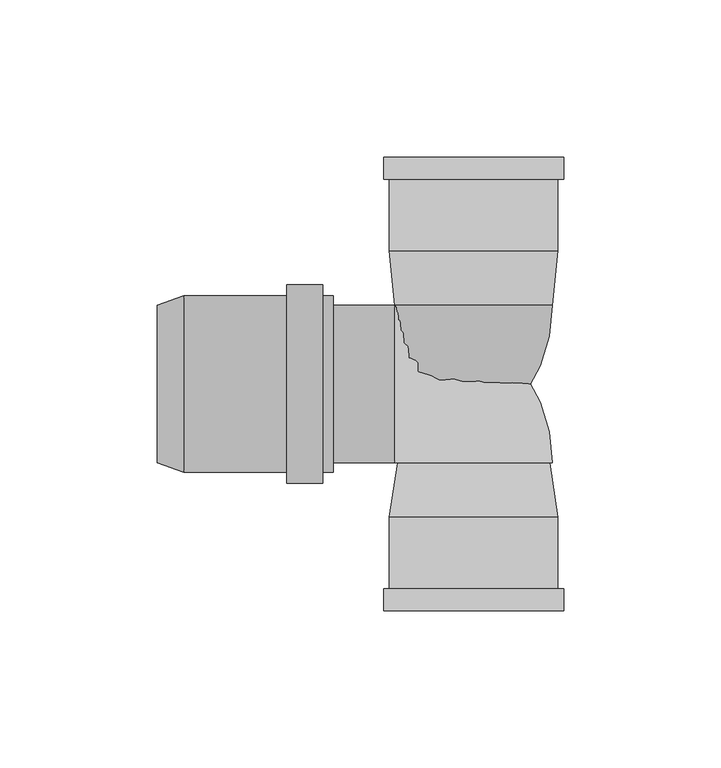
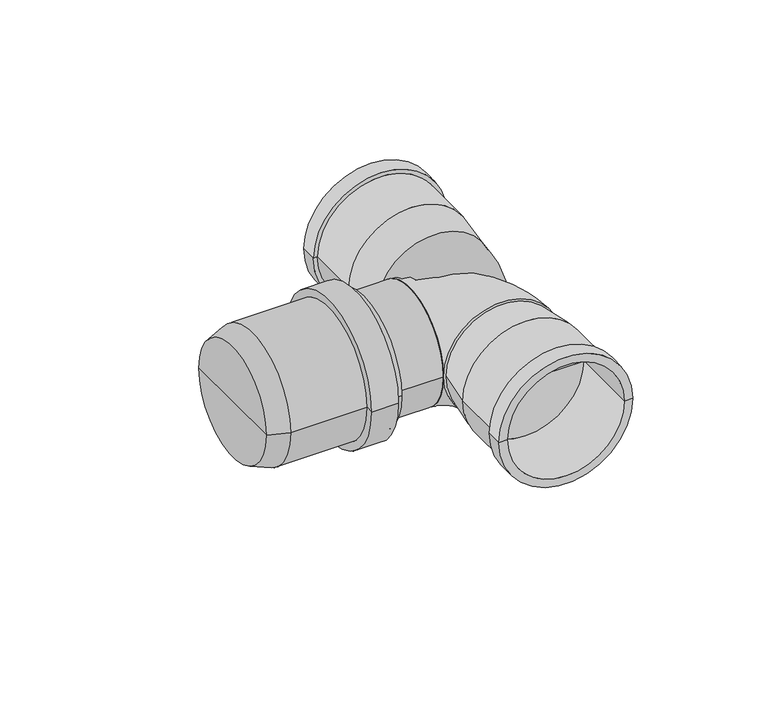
"""IFC4 building model written with IfcOpenShell, lengths in millimetres: pipe fitting geometry, pf_HTDSW : pf_HTDSW."""

import ifcopenshell
import ifcopenshell.guid

model = None  # the IFC model being written
_history = None  # IfcOwnerHistory: only IFC2X3 demands one
_inside = {}  # id of a spatial element -> (the spatial element, [elements in it])
_under = {}  # id of a project, library or spatial element -> (it, [spatial elements below it])
_declared = {}  # id of a project -> (the project, [libraries it declares])
_typed = {}  # id of a type object -> (the type object, [elements of that type])
_made_of = {}  # id of a material, layer set ... -> (it, [elements and type objects made of it])


def new_model(schema):
    """Start an empty IFC model of exactly this schema.

    Asked for "IFC4X3", IfcOpenShell would pick the latest addendum, in which some entities
    have other attributes; the version numbers below select the first issue.
    IFC2X3 requires an IfcOwnerHistory on every rooted entity: one is made here for all.
    """
    global model, _history
    if schema == "IFC4X3":
        model = ifcopenshell.file(schema_version=(4, 3, 0, 0))
    else:
        model = ifcopenshell.file(schema=schema)
    _inside.clear()
    _under.clear()
    _declared.clear()
    _typed.clear()
    _made_of.clear()
    _history = None
    if model.schema == "IFC2X3":
        org = make("IfcOrganization", Name="unknown")
        user = make(
            "IfcPersonAndOrganization",
            ThePerson=make("IfcPerson", FamilyName="unknown"),
            TheOrganization=org,
        )
        app = make(
            "IfcApplication",
            ApplicationDeveloper=org,
            Version="unknown",
            ApplicationFullName="unknown",
            ApplicationIdentifier="unknown",
        )
        _history = make(
            "IfcOwnerHistory",
            OwningUser=user,
            OwningApplication=app,
            ChangeAction="ADDED",
            CreationDate=0,
        )
    return model


def make(cls, **values):
    """One entity of the class cls with the attributes given. An attribute that is None is left unset."""
    return model.create_entity(
        cls, **{name: value for name, value in values.items() if value is not None}
    )


def rooted(cls, **values):
    """An entity with a GlobalId (a new one), such as an element, a storey or a relation."""
    return make(cls, GlobalId=ifcopenshell.guid.new(), OwnerHistory=_history, **values)


def si_unit(unit_type, name, prefix=None):
    """IfcSIUnit, for example si_unit("LENGTHUNIT", "METRE", prefix="MILLI")."""
    return make("IfcSIUnit", UnitType=unit_type, Prefix=prefix, Name=name)


def assignment(units):
    """IfcUnitAssignment: the units of a project."""
    return None if units is None else make("IfcUnitAssignment", Units=units)


def point(xyz):
    """IfcCartesianPoint."""
    return None if xyz is None else make("IfcCartesianPoint", Coordinates=xyz)


def direction(xyz):
    """IfcDirection."""
    return None if xyz is None else make("IfcDirection", DirectionRatios=xyz)


def frame(location, z_axis=None, x_axis=None):
    """IfcAxis2Placement3D, a coordinate frame: its origin and axes. An axis left out is left unset."""
    return make(
        "IfcAxis2Placement3D",
        Location=point(location),
        Axis=direction(z_axis),
        RefDirection=direction(x_axis),
    )


def frame_2d(location, x_axis=None):
    """IfcAxis2Placement2D, a coordinate frame in the plane: its origin and x axis."""
    return make(
        "IfcAxis2Placement2D", Location=point(location), RefDirection=direction(x_axis)
    )


def origin():
    """The frame at (0, 0, 0) with its axes left unset."""
    return frame((0.0, 0.0, 0.0))


def origin_2d():
    """The frame at (0, 0) in the plane with its x axis left unset."""
    return frame_2d((0.0, 0.0))


def place(relative_to, where):
    """IfcLocalPlacement: puts the frame where relative to a parent placement (None: the world)."""
    return make(
        "IfcLocalPlacement", PlacementRelTo=relative_to, RelativePlacement=where
    )


def context(
    kind, dimensions, precision=None, world=None, true_north=None, identifier=None
):
    """IfcGeometricRepresentationContext, for example the 3D "Model" context."""
    return make(
        "IfcGeometricRepresentationContext",
        ContextIdentifier=identifier,
        ContextType=kind,
        CoordinateSpaceDimension=dimensions,
        Precision=precision,
        WorldCoordinateSystem=world,
        TrueNorth=true_north,
    )


def project(units=None, contexts=None):
    """IfcProject with its units and contexts."""
    return rooted(
        "IfcProject",
        Name="project",
        RepresentationContexts=contexts,
        UnitsInContext=assignment(units),
    )


def spatial(cls, under=None, at=None, **own):
    """A site, building, storey or space (cls), placed at a placement, below another one or the project."""
    s = rooted(cls, ObjectPlacement=at, **own)
    if under is not None:
        _under.setdefault(under.id(), (under, []))[1].append(s)
    return s


def polyline(points):
    """IfcPolyline through the points."""
    return make("IfcPolyline", Points=[point(p) for p in points])


def circle_curve(where, radius):
    """IfcCircle in the frame where."""
    return make("IfcCircle", Position=where, Radius=radius)


def ellipse_curve(where, semi_axis1, semi_axis2):
    """IfcEllipse in the frame where."""
    return make(
        "IfcEllipse", Position=where, SemiAxis1=semi_axis1, SemiAxis2=semi_axis2
    )


def trimmed(basis, trim1, trim2, sense, master):
    """IfcTrimmedCurve: the piece of a basis curve between two trims."""
    return make(
        "IfcTrimmedCurve",
        BasisCurve=basis,
        Trim1=trim1,
        Trim2=trim2,
        SenseAgreement=sense,
        MasterRepresentation=master,
    )


def segment(curve, same_sense, transition):
    """IfcCompositeCurveSegment."""
    return make(
        "IfcCompositeCurveSegment",
        Transition=transition,
        SameSense=same_sense,
        ParentCurve=curve,
    )


def composite_curve(segments, self_intersect=None):
    """IfcCompositeCurve: segments joined end to end."""
    return make("IfcCompositeCurve", Segments=segments, SelfIntersect=self_intersect)


def outline(outer, holes=None, kind="AREA"):
    """IfcArbitraryClosedProfileDef: a profile drawn as a closed curve; with holes, ...WithVoids."""
    if holes is None:
        return make("IfcArbitraryClosedProfileDef", ProfileType=kind, OuterCurve=outer)
    return make(
        "IfcArbitraryProfileDefWithVoids",
        ProfileType=kind,
        OuterCurve=outer,
        InnerCurves=holes,
    )


def extrude(swept, where, along, depth):
    """IfcExtrudedAreaSolid: the profile swept, set in the frame where, extruded along a direction by depth."""
    return make(
        "IfcExtrudedAreaSolid",
        SweptArea=swept,
        Position=where,
        ExtrudedDirection=direction(along),
        Depth=depth,
    )


def shape(context_of_items, identifier, shape_type, items):
    """IfcShapeRepresentation: the items that make up one representation, for example the "Body"."""
    return make(
        "IfcShapeRepresentation",
        ContextOfItems=context_of_items,
        RepresentationIdentifier=identifier,
        RepresentationType=shape_type,
        Items=items,
    )


def source(mapping_origin, context_of_items, identifier, shape_type, items):
    """IfcRepresentationMap: a shape defined once, which mapped items show again and again."""
    return make(
        "IfcRepresentationMap",
        MappingOrigin=mapping_origin,
        MappedRepresentation=shape(context_of_items, identifier, shape_type, items),
    )


def transform(
    local_origin,
    x_axis=None,
    y_axis=None,
    z_axis=None,
    scale=None,
    scale2=None,
    scale3=None,
    uniform=True,
):
    """IfcCartesianTransformationOperator3D, or its non-uniform kind. x_axis, y_axis, z_axis: its Axis1, 2, 3."""
    if uniform:
        return make(
            "IfcCartesianTransformationOperator3D",
            Axis1=direction(x_axis),
            Axis2=direction(y_axis),
            LocalOrigin=point(local_origin),
            Scale=scale,
            Axis3=direction(z_axis),
        )
    return make(
        "IfcCartesianTransformationOperator3DnonUniform",
        Axis1=direction(x_axis),
        Axis2=direction(y_axis),
        LocalOrigin=point(local_origin),
        Scale=scale,
        Axis3=direction(z_axis),
        Scale2=scale2,
        Scale3=scale3,
    )


def mapped(mapping_source, mapping_target):
    """IfcMappedItem: shows the shape of a source again, moved by a transform."""
    return make(
        "IfcMappedItem", MappingSource=mapping_source, MappingTarget=mapping_target
    )


def made_of(thing, what):
    """Note that an element or type object is made of a material, layer set ...; save() writes the relation."""
    if what is not None:
        _made_of.setdefault(what.id(), (what, []))[1].append(thing)
    return thing


def element(
    cls,
    number,
    at=None,
    inside=None,
    cuts=None,
    type_object=None,
    material=None,
    context=None,
    identifier="Body",
    shape_type=None,
    held_by="IfcProductDefinitionShape",
    body=None,
    shapes=None,
    **own,
):
    """One element of the class cls, such as IfcWall. Its Tag is "e" and its number.

    at: its placement. inside: the storey or other place that contains it. cuts: it is an
    opening in that element (IfcRelVoidsElement). A single representation is given by context,
    identifier, shape_type and body (its items); several are given by shapes. held_by: the class
    of the entity that holds the representations. save() writes the other relations.
    """
    e = rooted(cls, Tag="e%d" % number, ObjectPlacement=at, **own)
    if body is not None:
        shapes = [shape(context, identifier, shape_type, body)]
    if shapes is not None:
        e.Representation = make(held_by, Representations=shapes)
    if inside is not None:
        _inside.setdefault(inside.id(), (inside, []))[1].append(e)
    if cuts is not None:
        rooted(
            "IfcRelVoidsElement", RelatingBuildingElement=cuts, RelatedOpeningElement=e
        )
    if type_object is not None:
        _typed.setdefault(type_object.id(), (type_object, []))[1].append(e)
    return made_of(e, material)


def aggregate(whole, parts):
    """IfcRelAggregates: a whole, such as a stair, and the parts it consists of."""
    return rooted("IfcRelAggregates", RelatingObject=whole, RelatedObjects=parts)


def save(model, path):
    """Write the relations noted so far, then the file.

    IfcRelAggregates (storeys below a building ...), IfcRelContainedInSpatialStructure (elements
    in a storey), IfcRelDefinesByType, IfcRelAssociatesMaterial and IfcRelDeclares: one each for
    every whole, place, type object, material and project.
    """
    for whole, parts in _under.values():
        aggregate(whole, parts)
    for where, things in _inside.values():
        rooted(
            "IfcRelContainedInSpatialStructure",
            RelatedElements=things,
            RelatingStructure=where,
        )
    for kind, things in _typed.values():
        rooted("IfcRelDefinesByType", RelatedObjects=things, RelatingType=kind)
    for what, things in _made_of.values():
        rooted("IfcRelAssociatesMaterial", RelatedObjects=things, RelatingMaterial=what)
    for by, libraries in _declared.values():
        rooted("IfcRelDeclares", RelatingContext=by, RelatedDefinitions=libraries)
    model.write(path)


def plane_surface(at):
    """IfcPlane: the flat surface through the origin of the frame at, square to its z axis."""
    return make("IfcPlane", Position=at)


def cylinder_surface(at, radius):
    """IfcCylindricalSurface: all points at the distance radius from the z axis of the frame at."""
    return make("IfcCylindricalSurface", Position=at, Radius=radius)


def revolved_surface(curve, axis_point, axis_direction):
    """IfcSurfaceOfRevolution: the curve turned about the line through axis_point along axis_direction."""
    return make(
        "IfcSurfaceOfRevolution",
        SweptCurve=make("IfcArbitraryOpenProfileDef", ProfileType="CURVE", Curve=curve),
        AxisPosition=make("IfcAxis1Placement", Location=point(axis_point), Axis=direction(axis_direction)),
    )


def advanced_brep(points, edges, surfaces, faces):
    """IfcAdvancedBrep: a solid bounded by faces that lie on surfaces and meet in shared edges.

    An edge is (start, end): straight between two places in points (the first is 0);
    or (start, end, curve); or (start, end, curve, False) where it runs against its curve.
    A face is (place in surfaces, loops), or (place, loops, False) where it looks against
    its surface's normal. A loop lists edges by number (the first is 1), with a minus sign
    where the edge is run from its end to its start. The first loop is the outer one.
    """
    corners = [point(p) for p in points]
    vertices = [make("IfcVertexPoint", VertexGeometry=c) for c in corners]
    made = []
    for start, end, *more in edges:
        made.append(
            make(
                "IfcEdgeCurve",
                EdgeStart=vertices[start],
                EdgeEnd=vertices[end],
                EdgeGeometry=more[0] if more else make("IfcPolyline", Points=[corners[start], corners[end]]),
                SameSense=more[1] if len(more) > 1 else True,
            )
        )
    hull = []
    for where, loops, *sense in faces:
        bounds = []
        for j, loop in enumerate(loops):
            ring = [make("IfcOrientedEdge", EdgeElement=made[abs(k) - 1], Orientation=k > 0) for k in loop]
            bounds.append(
                make(
                    "IfcFaceOuterBound" if j == 0 else "IfcFaceBound",
                    Bound=make("IfcEdgeLoop", EdgeList=ring),
                    Orientation=True,
                )
            )
        hull.append(make("IfcAdvancedFace", Bounds=bounds, FaceSurface=surfaces[where], SameSense=sense[0] if sense else True))
    return make("IfcAdvancedBrep", Outer=make("IfcClosedShell", CfsFaces=hull))


def pipe_fitting_2e858e45(model_context):
    return source(origin(), model_context, "Body", "SolidModel", [
        advanced_brep(
        [(-100.6, -25.0, 0.0), (-100.6, 25.0, 0.0), (-92.1, 28.1, 0.0), (-92.1, -28.1, 0.0), (-100.6, 0.0, 0.0), (-44.6, -28.1, 0.0), (-44.6, 28.1, 0.0), (-44.6, 25.0, 0.0), (-44.6, -25.0, 0.0), (-48.0, -28.1, 0.0), (-48.0, 28.1, 0.0), (-48.0, -31.5, 0.0), (-48.0, 31.5, 0.0), (-59.4, -31.5, 0.0), (-59.4, 31.5, 0.0), (-59.4, -28.1, 0.0), (-59.4, 28.1, 0.0), (-92.1, -25.0, 0.0), (-92.1, 25.0, 0.0), (-92.1, 0.0, 0.0)],
        [
            (0, 1, circle_curve(frame((-100.6, 0.0, 0.0), z_axis=(1.0, 0.0, 0.0), x_axis=(0.0, 1.0, 0.0)), 25.0)),
            (1, 2),
            (2, 3, circle_curve(frame((-92.1, 0.0, 0.0), z_axis=(-1.0, 0.0, 0.0), x_axis=(0.0, 1.0, 0.0)), 28.1)),
            (3, 0),
            (1, 0, circle_curve(frame((-100.6, 0.0, 0.0), z_axis=(1.0, 0.0, 0.0), x_axis=(0.0, 1.0, 0.0)), 25.0)),
            (3, 2, circle_curve(frame((-92.1, 0.0, 0.0), z_axis=(-1.0, 0.0, 0.0), x_axis=(0.0, 1.0, 0.0)), 28.1)),
            (4, 1),
            (0, 4),
            (5, 6, circle_curve(frame((-44.6, 0.0, 0.0), z_axis=(1.0, 0.0, 0.0), x_axis=(0.0, 1.0, 0.0)), 28.1)),
            (6, 7),
            (7, 8, circle_curve(frame((-44.6, 0.0, 0.0), z_axis=(-1.0, 0.0, 0.0), x_axis=(0.0, 1.0, 0.0)), 25.0)),
            (8, 5),
            (6, 5, circle_curve(frame((-44.6, 0.0, 0.0), z_axis=(1.0, 0.0, 0.0), x_axis=(0.0, 1.0, 0.0)), 28.1)),
            (8, 7, circle_curve(frame((-44.6, 0.0, 0.0), z_axis=(-1.0, 0.0, 0.0), x_axis=(0.0, 1.0, 0.0)), 25.0)),
            (9, 10, circle_curve(frame((-48.0, 0.0, 0.0), z_axis=(1.0, 0.0, 0.0), x_axis=(0.0, 1.0, 0.0)), 28.1)),
            (10, 6),
            (5, 9),
            (10, 9, circle_curve(frame((-48.0, 0.0, 0.0), z_axis=(1.0, 0.0, 0.0), x_axis=(0.0, 1.0, 0.0)), 28.1)),
            (11, 12, circle_curve(frame((-48.0, 0.0, 0.0), z_axis=(1.0, 0.0, 0.0), x_axis=(0.0, 1.0, 0.0)), 31.5)),
            (12, 10),
            (9, 11),
            (12, 11, circle_curve(frame((-48.0, 0.0, 0.0), z_axis=(1.0, 0.0, 0.0), x_axis=(0.0, 1.0, 0.0)), 31.5)),
            (13, 14, circle_curve(frame((-59.4, 0.0, 0.0), z_axis=(1.0, 0.0, 0.0), x_axis=(0.0, 1.0, 0.0)), 31.5)),
            (14, 12),
            (11, 13),
            (14, 13, circle_curve(frame((-59.4, 0.0, 0.0), z_axis=(1.0, 0.0, 0.0), x_axis=(0.0, 1.0, 0.0)), 31.5)),
            (15, 16, circle_curve(frame((-59.4, 0.0, 0.0), z_axis=(1.0, 0.0, 0.0), x_axis=(0.0, 1.0, 0.0)), 28.1)),
            (16, 14),
            (13, 15),
            (16, 15, circle_curve(frame((-59.4, 0.0, 0.0), z_axis=(1.0, 0.0, 0.0), x_axis=(0.0, 1.0, 0.0)), 28.1)),
            (2, 16),
            (15, 3),
            (17, 18, circle_curve(frame((-92.1, 0.0, 0.0), z_axis=(1.0, 0.0, 0.0), x_axis=(0.0, 1.0, 0.0)), 25.0)),
            (18, 19),
            (19, 17),
            (18, 17, circle_curve(frame((-92.1, 0.0, 0.0), z_axis=(1.0, 0.0, 0.0), x_axis=(0.0, 1.0, 0.0)), 25.0)),
            (7, 18),
            (17, 8),
        ],
        [
            revolved_surface(polyline([(-92.1, 28.1, 0.0), (-100.6, 25.0, 0.0)]), (-100.6, 0.0, 0.0), (-1.0, 0.0, 0.0)),
            plane_surface(frame((-100.6, 0.0, 0.0), z_axis=(-1.0, 0.0, 0.0), x_axis=(0.0, 1.0, 0.0))),
            plane_surface(frame((-44.6, 0.0, 0.0), z_axis=(1.0, 0.0, 0.0), x_axis=(0.0, 1.0, 0.0))),
            cylinder_surface(frame((-100.6, 0.0, 0.0), z_axis=(-1.0, 0.0, 0.0), x_axis=(0.0, 1.0, 0.0)), 28.1),
            plane_surface(frame((-48.0, 0.0, 0.0), z_axis=(1.0, 0.0, 0.0), x_axis=(0.0, 1.0, 0.0))),
            cylinder_surface(frame((-100.6, 0.0, 0.0), z_axis=(-1.0, 0.0, 0.0), x_axis=(0.0, 1.0, 0.0)), 31.5),
            plane_surface(frame((-59.4, 0.0, 0.0), z_axis=(-1.0, 0.0, 0.0), x_axis=(0.0, 1.0, 0.0))),
            plane_surface(frame((-92.1, 0.0, 0.0), z_axis=(1.0, 0.0, 0.0), x_axis=(0.0, 1.0, 0.0))),
            revolved_surface(polyline([(-92.1, 25.0, 0.0), (-44.6, 25.0, 0.0)]), (-100.6, 0.0, 0.0), (-1.0, 0.0, 0.0)),
        ],
        [
            (0, [[1, 2, 3, 4]]),
            (0, [[5, -4, 6, -2]]),
            (1, [[7, -1, 8]]),
            (1, [[-8, -5, -7]]),
            (2, [[9, 10, 11, 12]]),
            (2, [[13, -12, 14, -10]]),
            (3, [[15, 16, -9, 17]]),
            (3, [[18, -17, -13, -16]]),
            (4, [[19, 20, -15, 21]]),
            (4, [[22, -21, -18, -20]]),
            (5, [[23, 24, -19, 25]]),
            (5, [[26, -25, -22, -24]]),
            (6, [[27, 28, -23, 29]]),
            (6, [[30, -29, -26, -28]]),
            (3, [[-3, 31, -27, 32]]),
            (3, [[-6, -32, -30, -31]]),
            (7, [[33, 34, 35]]),
            (7, [[36, -35, -34]]),
            (8, [[-11, 37, -33, 38]]),
            (8, [[-14, -38, -36, -37]]),
        ],
    ),
        advanced_brep(
        [(25.0, -25.0, 0.0), (-25.0, -25.0, 0.0), (-25.0, 25.0, 0.0)],
        [
            (0, 1, circle_curve(frame((0.0, -25.0, 0.0), z_axis=(0.0, -1.0, 0.0), x_axis=(-1.0, 0.0, 0.0)), 25.0)),
            (1, 0, circle_curve(frame((0.0, -25.0, 0.0), z_axis=(0.0, -1.0, 0.0), x_axis=(-1.0, 0.0, 0.0)), 25.0)),
            (2, 1, circle_curve(frame((-25.0, 0.0, 0.0), z_axis=(-1.0, 0.0, 0.0), x_axis=(0.0, -1.0, 0.0)), 25.0)),
            (1, 2, circle_curve(frame((-25.0, 0.0, 0.0), z_axis=(-1.0, 0.0, 0.0), x_axis=(0.0, -1.0, 0.0)), 25.0)),
            (2, 0, circle_curve(frame((-25.0, -25.0, 0.0), z_axis=(0.0, 0.0, -1.0), x_axis=(1.0, 0.0, 0.0)), 50.0)),
        ],
        [
            plane_surface(frame((-25.0, -25.0, -14.8), z_axis=(0.0, -1.0, 0.0), x_axis=(1.0, 0.0, 0.0))),
            plane_surface(frame((-25.0, -25.0, -14.8), z_axis=(-1.0, 0.0, 0.0), x_axis=(0.0, 1.0, 0.0))),
            revolved_surface(trimmed(ellipse_curve(frame((0.0, -25.0, 0.0), z_axis=(0.0, -1.0, 0.0), x_axis=(-1.0, 0.0, 0.0)), 25.0, 25.0), [point((-25.0, -25.0, 0.0))], [point((25.0, -25.0, 0.0))], True, "CARTESIAN"), (-25.0, -25.0, -14.8), (0.0, 0.0, 1.0)),
            revolved_surface(trimmed(ellipse_curve(frame((0.0, -25.0, 0.0), z_axis=(0.0, -1.0, 0.0), x_axis=(-1.0, 0.0, 0.0)), 25.0, 25.0), [point((25.0, -25.0, 0.0))], [point((-25.0, -25.0, 0.0))], True, "CARTESIAN"), (-25.0, -25.0, -14.8), (0.0, 0.0, 1.0)),
        ],
        [
            (0, [[1, 2]]),
            (1, [[3, 4]]),
            (2, [[5, -2, -3]]),
            (3, [[-1, -5, -4]]),
        ],
    ),
        extrude(outline(composite_curve([segment(trimmed(circle_curve(origin_2d(), 25.0), [point((-25.0, 0.0))], [point((25.0, 0.0))], False, "CARTESIAN"), True, "CONTINUOUS"), segment(trimmed(circle_curve(origin_2d(), 25.0), [point((25.0, 0.0))], [point((-25.0, 0.0))], False, "CARTESIAN"), True, "CONTINUOUS")], self_intersect=False)), frame((-44.6, 0.0, 0.0), z_axis=(1.0, 0.0, 0.0), x_axis=(0.0, 1.0, 0.0)), (0.0, 0.0, 1.0), 19.6),
        advanced_brep(
        [(25.0, 25.0, 0.0), (-25.0, 25.0, 0.0), (-25.0, -25.0, 0.0)],
        [
            (0, 1, circle_curve(frame((0.0, 25.0, 0.0), z_axis=(0.0, 1.0, 0.0), x_axis=(-1.0, 0.0, 0.0)), 25.0)),
            (1, 0, circle_curve(frame((0.0, 25.0, 0.0), z_axis=(0.0, 1.0, 0.0), x_axis=(-1.0, 0.0, 0.0)), 25.0)),
            (2, 1, circle_curve(frame((-25.0, 0.0, 0.0), z_axis=(-1.0, 0.0, 0.0), x_axis=(0.0, 1.0, 0.0)), 25.0)),
            (1, 2, circle_curve(frame((-25.0, 0.0, 0.0), z_axis=(-1.0, 0.0, 0.0), x_axis=(0.0, 1.0, 0.0)), 25.0)),
            (0, 2, circle_curve(frame((-25.0, 25.0, 0.0), z_axis=(0.0, 0.0, -1.0), x_axis=(1.0, 0.0, 0.0)), 50.0)),
        ],
        [
            plane_surface(frame((-25.0, 25.0, -14.8), z_axis=(0.0, 1.0, 0.0), x_axis=(1.0, 0.0, 0.0))),
            plane_surface(frame((-25.0, 25.0, -14.8), z_axis=(-1.0, 0.0, 0.0), x_axis=(0.0, -1.0, 0.0))),
            revolved_surface(trimmed(ellipse_curve(frame((0.0, 25.0, 0.0), z_axis=(0.0, 1.0, 0.0), x_axis=(-1.0, 0.0, 0.0)), 25.0, 25.0), [point((25.0, 25.0, 0.0))], [point((-25.0, 25.0, 0.0))], True, "CARTESIAN"), (-25.0, 25.0, -14.8), (0.0, 0.0, -1.0)),
            revolved_surface(trimmed(ellipse_curve(frame((0.0, 25.0, 0.0), z_axis=(0.0, 1.0, 0.0), x_axis=(-1.0, 0.0, 0.0)), 25.0, 25.0), [point((-25.0, 25.0, 0.0))], [point((25.0, 25.0, 0.0))], True, "CARTESIAN"), (-25.0, 25.0, -14.8), (0.0, 0.0, -1.0)),
        ],
        [
            (0, [[1, 2]]),
            (1, [[3, 4]]),
            (2, [[-1, 5, -4]]),
            (3, [[-5, -2, -3]]),
        ],
    ),
        advanced_brep(
        [(25.0, -42.3, 0.0), (-25.0, -42.3, 0.0), (-25.0, -72.1, 0.0), (25.0, -72.1, 0.0), (-28.6, -72.1, 0.0), (28.6, -72.1, 0.0), (26.8, -65.1184027, 0.0), (-26.8, -65.1184027, 0.0), (-26.8, -42.3, 0.0), (26.8, -42.3, 0.0), (-24.1384615, -25.0, 0.0), (24.1384615, -25.0, 0.0), (0.0, -25.0, 0.0), (28.6, -65.1184027, 0.0), (-28.6, -65.1184027, 0.0), (0.0, -42.3, 0.0)],
        [
            (0, 1, circle_curve(frame((0.0, -42.3, 0.0), z_axis=(0.0, 1.0, 0.0), x_axis=(-1.0, 0.0, 0.0)), 25.0)),
            (1, 2),
            (2, 3, circle_curve(frame((0.0, -72.1, 0.0), z_axis=(0.0, -1.0, 0.0), x_axis=(-1.0, 0.0, 0.0)), 25.0)),
            (3, 0),
            (2, 4),
            (4, 5, circle_curve(frame((0.0, -72.1, 0.0), z_axis=(0.0, -1.0, 0.0), x_axis=(-1.0, 0.0, 0.0)), 28.6)),
            (5, 3),
            (6, 7, circle_curve(frame((0.0, -65.1184027, 0.0), z_axis=(0.0, 1.0, 0.0), x_axis=(-1.0, 0.0, 0.0)), 26.8)),
            (7, 8),
            (8, 9, circle_curve(frame((0.0, -42.3, 0.0), z_axis=(0.0, -1.0, 0.0), x_axis=(-1.0, 0.0, 0.0)), 26.8)),
            (9, 6),
            (8, 10),
            (10, 11, circle_curve(frame((0.0, -25.0, 0.0), z_axis=(0.0, -1.0, 0.0), x_axis=(-1.0, 0.0, 0.0)), 24.1384615)),
            (11, 9),
            (10, 12),
            (12, 11),
            (13, 14, circle_curve(frame((0.0, -65.1184027, 0.0), z_axis=(0.0, 1.0, 0.0), x_axis=(-1.0, 0.0, 0.0)), 28.6)),
            (14, 7),
            (6, 13),
            (1, 0, circle_curve(frame((0.0, -42.3, 0.0), z_axis=(0.0, 1.0, 0.0), x_axis=(-1.0, 0.0, 0.0)), 25.0)),
            (3, 2, circle_curve(frame((0.0, -72.1, 0.0), z_axis=(0.0, -1.0, 0.0), x_axis=(-1.0, 0.0, 0.0)), 25.0)),
            (5, 4, circle_curve(frame((0.0, -72.1, 0.0), z_axis=(0.0, -1.0, 0.0), x_axis=(-1.0, 0.0, 0.0)), 28.6)),
            (4, 14),
            (13, 5),
            (13, 14, circle_curve(frame((0.0, -65.1184027, 0.0), z_axis=(0.0, -1.0, 0.0), x_axis=(-1.0, 0.0, 0.0)), 28.6)),
            (6, 7, circle_curve(frame((0.0, -65.1184027, 0.0), z_axis=(0.0, -1.0, 0.0), x_axis=(-1.0, 0.0, 0.0)), 26.8)),
            (9, 8, circle_curve(frame((0.0, -42.3, 0.0), z_axis=(0.0, -1.0, 0.0), x_axis=(-1.0, 0.0, 0.0)), 26.8)),
            (11, 10, circle_curve(frame((0.0, -25.0, 0.0), z_axis=(0.0, -1.0, 0.0), x_axis=(-1.0, 0.0, 0.0)), 24.1384615)),
            (15, 1),
            (0, 15),
        ],
        [
            revolved_surface(polyline([(-25.0, -72.1, 0.0), (-25.0, -42.3, 0.0)]), (0.0, -72.1, 0.0), (0.0, -1.0, 0.0)),
            plane_surface(frame((0.0, -72.1, 0.0), z_axis=(0.0, -1.0, 0.0), x_axis=(-1.0, 0.0, 0.0))),
            cylinder_surface(frame((0.0, -72.1, 0.0), z_axis=(0.0, -1.0, 0.0), x_axis=(-1.0, 0.0, 0.0)), 26.8),
            revolved_surface(polyline([(-24.1384615, -25.0, 0.0), (-26.8, -42.3, 0.0)]), (0.0, -72.1, 0.0), (0.0, -1.0, 0.0)),
            plane_surface(frame((0.0, -25.0, 0.0), z_axis=(0.0, 1.0, 0.0), x_axis=(-1.0, 0.0, 0.0))),
            plane_surface(frame((0.0, -65.1184027, 0.0), z_axis=(0.0, 1.0, 0.0), x_axis=(-1.0, 0.0, 0.0))),
            cylinder_surface(frame((0.0, -72.1, 0.0), z_axis=(0.0, -1.0, 0.0), x_axis=(-1.0, 0.0, 0.0)), 28.6),
            plane_surface(frame((0.0, -42.3, 0.0), z_axis=(0.0, -1.0, 0.0), x_axis=(-1.0, 0.0, 0.0))),
        ],
        [
            (0, [[1, 2, 3, 4]]),
            (1, [[-3, 5, 6, 7]]),
            (2, [[8, 9, 10, 11]]),
            (3, [[-10, 12, 13, 14]]),
            (4, [[-13, 15, 16]]),
            (5, [[17, 18, -8, 19]]),
            (0, [[20, -4, 21, -2]]),
            (1, [[-21, -7, 22, -5]]),
            (6, [[-6, 23, -17, 24]]),
            (6, [[-22, -24, 25, -23]]),
            (5, [[-25, -19, 26, -18]]),
            (2, [[-26, -11, 27, -9]]),
            (3, [[-27, -14, 28, -12]]),
            (4, [[-28, -16, -15]]),
            (7, [[29, -1, 30]]),
            (7, [[-30, -20, -29]]),
        ],
    ),
        advanced_brep(
        [(25.0, 72.1, 0.0), (-25.0, 72.1, 0.0), (-25.0, 42.3, 0.0), (25.0, 42.3, 0.0), (28.6, 72.1, 0.0), (-28.6, 72.1, 0.0), (26.8, 42.3, 0.0), (-26.8, 42.3, 0.0), (-26.8, 65.1184027, 0.0), (26.8, 65.1184027, 0.0), (25.0, 25.0, 0.0), (-25.0, 25.0, 0.0), (0.0, 25.0, 0.0), (-28.6, 65.1184027, 0.0), (28.6, 65.1184027, 0.0), (0.0, 42.3, 0.0)],
        [
            (0, 1, circle_curve(frame((0.0, 72.1, 0.0), z_axis=(0.0, 1.0, 0.0), x_axis=(-1.0, 0.0, 0.0)), 25.0)),
            (1, 2),
            (2, 3, circle_curve(frame((0.0, 42.3, 0.0), z_axis=(0.0, -1.0, 0.0), x_axis=(-1.0, 0.0, 0.0)), 25.0)),
            (3, 0),
            (4, 5, circle_curve(frame((0.0, 72.1, 0.0), z_axis=(0.0, 1.0, 0.0), x_axis=(-1.0, 0.0, 0.0)), 28.6)),
            (5, 1),
            (0, 4),
            (6, 7, circle_curve(frame((0.0, 42.3, 0.0), z_axis=(0.0, 1.0, 0.0), x_axis=(-1.0, 0.0, 0.0)), 26.8)),
            (7, 8),
            (8, 9, circle_curve(frame((0.0, 65.1184027, 0.0), z_axis=(0.0, -1.0, 0.0), x_axis=(-1.0, 0.0, 0.0)), 26.8)),
            (9, 6),
            (10, 11, circle_curve(frame((0.0, 25.0, 0.0), z_axis=(0.0, 1.0, 0.0), x_axis=(-1.0, 0.0, 0.0)), 25.0)),
            (11, 7),
            (6, 10),
            (12, 11),
            (10, 12),
            (8, 13),
            (13, 14, circle_curve(frame((0.0, 65.1184027, 0.0), z_axis=(0.0, -1.0, 0.0), x_axis=(-1.0, 0.0, 0.0)), 28.6)),
            (14, 9),
            (1, 0, circle_curve(frame((0.0, 72.1, 0.0), z_axis=(0.0, 1.0, 0.0), x_axis=(-1.0, 0.0, 0.0)), 25.0)),
            (3, 2, circle_curve(frame((0.0, 42.3, 0.0), z_axis=(0.0, -1.0, 0.0), x_axis=(-1.0, 0.0, 0.0)), 25.0)),
            (5, 4, circle_curve(frame((0.0, 72.1, 0.0), z_axis=(0.0, 1.0, 0.0), x_axis=(-1.0, 0.0, 0.0)), 28.6)),
            (13, 5),
            (4, 14),
            (13, 14, circle_curve(frame((0.0, 65.1184027, 0.0), z_axis=(0.0, 1.0, 0.0), x_axis=(-1.0, 0.0, 0.0)), 28.6)),
            (8, 9, circle_curve(frame((0.0, 65.1184027, 0.0), z_axis=(0.0, 1.0, 0.0), x_axis=(-1.0, 0.0, 0.0)), 26.8)),
            (7, 6, circle_curve(frame((0.0, 42.3, 0.0), z_axis=(0.0, 1.0, 0.0), x_axis=(-1.0, 0.0, 0.0)), 26.8)),
            (11, 10, circle_curve(frame((0.0, 25.0, 0.0), z_axis=(0.0, 1.0, 0.0), x_axis=(-1.0, 0.0, 0.0)), 25.0)),
            (2, 15),
            (15, 3),
        ],
        [
            revolved_surface(polyline([(-25.0, 42.3, 0.0), (-25.0, 72.1, 0.0)]), (0.0, 72.1, 0.0), (0.0, -1.0, 0.0)),
            plane_surface(frame((0.0, 72.1, 0.0), z_axis=(0.0, 1.0, 0.0), x_axis=(-1.0, 0.0, 0.0))),
            cylinder_surface(frame((0.0, 72.1, 0.0), z_axis=(0.0, -1.0, 0.0), x_axis=(-1.0, 0.0, 0.0)), 26.8),
            revolved_surface(polyline([(-26.8, 42.3, 0.0), (-25.0, 25.0, 0.0)]), (0.0, 72.1, 0.0), (0.0, -1.0, 0.0)),
            plane_surface(frame((0.0, 25.0, 0.0), z_axis=(0.0, -1.0, 0.0), x_axis=(-1.0, 0.0, 0.0))),
            plane_surface(frame((0.0, 65.1184027, 0.0), z_axis=(0.0, -1.0, 0.0), x_axis=(-1.0, 0.0, 0.0))),
            cylinder_surface(frame((0.0, 72.1, 0.0), z_axis=(0.0, -1.0, 0.0), x_axis=(-1.0, 0.0, 0.0)), 28.6),
            plane_surface(frame((0.0, 42.3, 0.0), z_axis=(0.0, 1.0, 0.0), x_axis=(-1.0, 0.0, 0.0))),
        ],
        [
            (0, [[1, 2, 3, 4]]),
            (1, [[5, 6, -1, 7]]),
            (2, [[8, 9, 10, 11]]),
            (3, [[12, 13, -8, 14]]),
            (4, [[15, -12, 16]]),
            (5, [[-10, 17, 18, 19]]),
            (0, [[20, -4, 21, -2]]),
            (1, [[22, -7, -20, -6]]),
            (6, [[-18, 23, -5, 24]]),
            (6, [[25, -24, -22, -23]]),
            (5, [[26, -19, -25, -17]]),
            (2, [[27, -11, -26, -9]]),
            (3, [[28, -14, -27, -13]]),
            (4, [[-16, -28, -15]]),
            (7, [[-3, 29, 30]]),
            (7, [[-21, -30, -29]]),
        ],
    ),
    ])


if __name__ == "__main__":
    model = new_model("IFC4")
    model_context = context("Model", 3, world=origin())
    ifc_project = project(units=[si_unit("LENGTHUNIT", "METRE", prefix="MILLI")], contexts=[model_context])
    site = spatial("IfcSite", under=ifc_project)
    building = spatial("IfcBuilding", under=site)
    placement = place(None, origin())
    pipe_fitting_shape = pipe_fitting_2e858e45(model_context)
    element("IfcPipeFitting", 1, ObjectType="pf_HTDSW : pf_HTDSW", at=placement, inside=building, context=model_context, shape_type="MappedRepresentation", body=[
        mapped(pipe_fitting_shape, transform((0.0, 0.0, 0.0), x_axis=(1.0, 0.0, 0.0), y_axis=(0.0, 1.0, 0.0), z_axis=(0.0, 0.0, 1.0))),
    ])
    save(model, "model.ifc")
